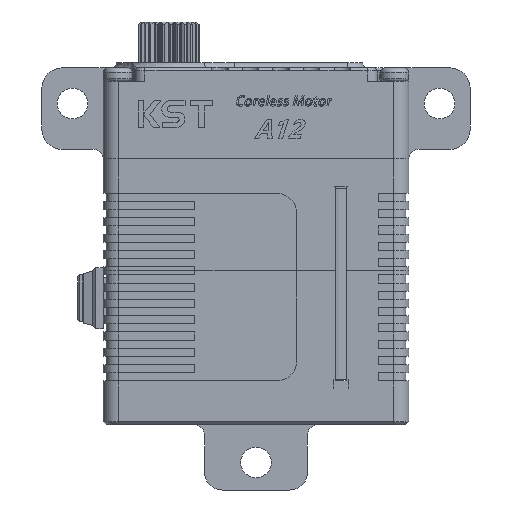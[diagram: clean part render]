
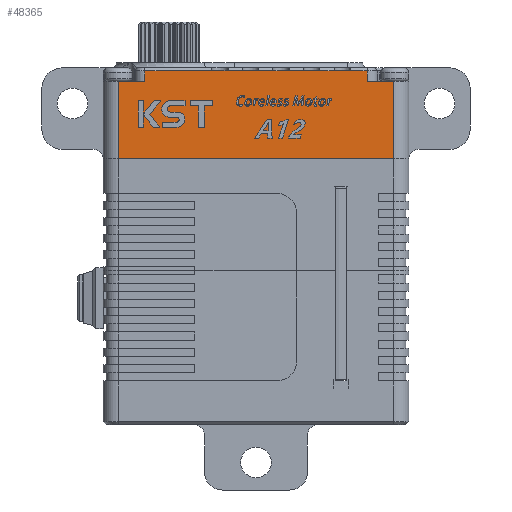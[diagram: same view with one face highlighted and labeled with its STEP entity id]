
A CAD part, front view. The second image highlights one B-rep face of the part: STEP entity #48365.
In plain terms, the highlighted planar face has unit normal (0, -1, 0).
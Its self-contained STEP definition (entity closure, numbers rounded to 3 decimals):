
#565 = VECTOR ( 'NONE', #31561, 1000. ) ;
#670 = VERTEX_POINT ( 'NONE', #24881 ) ;
#838 = ORIENTED_EDGE ( 'NONE', *, *, #50485, .T. ) ;
#1415 = CARTESIAN_POINT ( 'NONE',  ( -100.01, -23.605, 12.525 ) ) ;
#1687 = LINE ( 'NONE', #18117, #19752 ) ;
#2335 = CARTESIAN_POINT ( 'NONE',  ( -85.17, -23.605, 3.925 ) ) ;
#2393 = DIRECTION ( 'NONE',  ( 0., -1., 0. ) ) ;
#3161 = CARTESIAN_POINT ( 'NONE',  ( -85.17, -23.605, 11.525 ) ) ;
#3368 = LINE ( 'NONE', #5291, #38791 ) ;
#3504 = VERTEX_POINT ( 'NONE', #5169 ) ;
#4683 = EDGE_CURVE ( 'NONE', #3504, #26658, #1687, .T. ) ;
#5030 = CARTESIAN_POINT ( 'NONE',  ( -109.57, -23.605, 11.525 ) ) ;
#5169 = CARTESIAN_POINT ( 'NONE',  ( -97.01, -23.605, 12.525 ) ) ;
#5204 = DIRECTION ( 'NONE',  ( -1., 0., 0. ) ) ;
#5291 = CARTESIAN_POINT ( 'NONE',  ( -109.57, -23.605, 11.525 ) ) ;
#5498 = CARTESIAN_POINT ( 'NONE',  ( -94.01, -23.605, 12.525 ) ) ;
#5642 = ORIENTED_EDGE ( 'NONE', *, *, #38391, .T. ) ;
#5761 = VERTEX_POINT ( 'NONE', #2335 ) ;
#6139 = CARTESIAN_POINT ( 'NONE',  ( -98.67, -23.605, 12.525 ) ) ;
#6210 = CARTESIAN_POINT ( 'NONE',  ( -91.01, -23.605, 12.525 ) ) ;
#6582 = EDGE_CURVE ( 'NONE', #18808, #37841, #16674, .T. ) ;
#7113 = VERTEX_POINT ( 'NONE', #19435 ) ;
#7323 = DIRECTION ( 'NONE',  ( 0., 0., 1. ) ) ;
#8374 = CARTESIAN_POINT ( 'NONE',  ( -109.57, -23.605, 12.525 ) ) ;
#8912 = CARTESIAN_POINT ( 'NONE',  ( -98.67, -23.605, 12.525 ) ) ;
#9093 = VERTEX_POINT ( 'NONE', #9918 ) ;
#9282 = VERTEX_POINT ( 'NONE', #5030 ) ;
#9537 = CARTESIAN_POINT ( 'NONE',  ( -109.57, -23.605, 12.525 ) ) ;
#9852 = LINE ( 'NONE', #29312, #40899 ) ;
#9918 = CARTESIAN_POINT ( 'NONE',  ( -89.41, -23.605, 12.525 ) ) ;
#10071 = ORIENTED_EDGE ( 'NONE', *, *, #21860, .F. ) ;
#10084 = FACE_OUTER_BOUND ( 'NONE', #36856, .T. ) ;
#10905 = CARTESIAN_POINT ( 'NONE',  ( -98.67, -23.605, 12.525 ) ) ;
#11459 = LINE ( 'NONE', #9537, #41848 ) ;
#12508 = LINE ( 'NONE', #45454, #25492 ) ;
#12527 = EDGE_CURVE ( 'NONE', #29774, #18877, #32317, .T. ) ;
#12593 = DIRECTION ( 'NONE',  ( 0., 0., -1. ) ) ;
#12894 = CARTESIAN_POINT ( 'NONE',  ( -109.57, -23.605, 12.525 ) ) ;
#13334 = VECTOR ( 'NONE', #36129, 1000. ) ;
#13437 = LINE ( 'NONE', #15693, #32680 ) ;
#13836 = ORIENTED_EDGE ( 'NONE', *, *, #4683, .F. ) ;
#14155 = ORIENTED_EDGE ( 'NONE', *, *, #44339, .F. ) ;
#14239 = PLANE ( 'NONE',  #17272 ) ;
#14434 = VECTOR ( 'NONE', #33275, 1000. ) ;
#14587 = ORIENTED_EDGE ( 'NONE', *, *, #45323, .T. ) ;
#14924 = CARTESIAN_POINT ( 'NONE',  ( -95.41, -23.605, 12.525 ) ) ;
#15332 = CARTESIAN_POINT ( 'NONE',  ( -109.57, -23.605, 12.525 ) ) ;
#15677 = ORIENTED_EDGE ( 'NONE', *, *, #6582, .T. ) ;
#15693 = CARTESIAN_POINT ( 'NONE',  ( -85.17, -23.605, 10.525 ) ) ;
#16361 = DIRECTION ( 'NONE',  ( -1., 0., 0. ) ) ;
#16650 = CARTESIAN_POINT ( 'NONE',  ( -87.77, -23.605, 12.525 ) ) ;
#16656 = EDGE_CURVE ( 'NONE', #48278, #9282, #12508, .T. ) ;
#16674 = LINE ( 'NONE', #8374, #28477 ) ;
#17022 = ORIENTED_EDGE ( 'NONE', *, *, #27068, .F. ) ;
#17272 = AXIS2_PLACEMENT_3D ( 'NONE', #26511, #2393, #30194 ) ;
#18117 = CARTESIAN_POINT ( 'NONE',  ( -98.67, -23.605, 12.525 ) ) ;
#18381 = ORIENTED_EDGE ( 'NONE', *, *, #34651, .T. ) ;
#18579 = DIRECTION ( 'NONE',  ( 0., 0., -1. ) ) ;
#18808 = VERTEX_POINT ( 'NONE', #6210 ) ;
#18877 = VERTEX_POINT ( 'NONE', #23101 ) ;
#18933 = DIRECTION ( 'NONE',  ( 1., 0., 0. ) ) ;
#19435 = CARTESIAN_POINT ( 'NONE',  ( -101.41, -23.605, 12.525 ) ) ;
#19438 = DIRECTION ( 'NONE',  ( 1., 0., 0. ) ) ;
#19752 = VECTOR ( 'NONE', #40559, 1000. ) ;
#20606 = ORIENTED_EDGE ( 'NONE', *, *, #35065, .T. ) ;
#21074 = VERTEX_POINT ( 'NONE', #5498 ) ;
#21242 = VECTOR ( 'NONE', #41765, 1000. ) ;
#21385 = CARTESIAN_POINT ( 'NONE',  ( -109.57, -23.605, 12.525 ) ) ;
#21736 = LINE ( 'NONE', #39353, #565 ) ;
#21860 = EDGE_CURVE ( 'NONE', #18808, #9093, #43052, .T. ) ;
#22273 = LINE ( 'NONE', #42022, #49518 ) ;
#23101 = CARTESIAN_POINT ( 'NONE',  ( -98.41, -23.605, 12.525 ) ) ;
#23235 = VERTEX_POINT ( 'NONE', #51128 ) ;
#24389 = VECTOR ( 'NONE', #18933, 1000. ) ;
#24881 = CARTESIAN_POINT ( 'NONE',  ( -112.17, -23.605, 3.925 ) ) ;
#25060 = VERTEX_POINT ( 'NONE', #39522 ) ;
#25084 = EDGE_CURVE ( 'NONE', #23235, #41159, #34953, .T. ) ;
#25287 = DIRECTION ( 'NONE',  ( 0., 0., 1. ) ) ;
#25492 = VECTOR ( 'NONE', #48729, 1000. ) ;
#26511 = CARTESIAN_POINT ( 'NONE',  ( -77.67, -23.605, 12.825 ) ) ;
#26658 = VERTEX_POINT ( 'NONE', #14924 ) ;
#26765 = ORIENTED_EDGE ( 'NONE', *, *, #39846, .T. ) ;
#27068 = EDGE_CURVE ( 'NONE', #21074, #37841, #46071, .T. ) ;
#28477 = VECTOR ( 'NONE', #16361, 1000. ) ;
#29312 = CARTESIAN_POINT ( 'NONE',  ( -87.77, -23.605, 12.825 ) ) ;
#29317 = ORIENTED_EDGE ( 'NONE', *, *, #44439, .T. ) ;
#29516 = VECTOR ( 'NONE', #30938, 1000. ) ;
#29774 = VERTEX_POINT ( 'NONE', #1415 ) ;
#30194 = DIRECTION ( 'NONE',  ( 0., 0., -1. ) ) ;
#30886 = CARTESIAN_POINT ( 'NONE',  ( -86.92, -23.605, 11.525 ) ) ;
#30938 = DIRECTION ( 'NONE',  ( -1., 0., 0. ) ) ;
#31561 = DIRECTION ( 'NONE',  ( 1., 0., 0. ) ) ;
#31716 = VECTOR ( 'NONE', #46965, 1000. ) ;
#32317 = LINE ( 'NONE', #10905, #36678 ) ;
#32362 = LINE ( 'NONE', #46806, #31716 ) ;
#32538 = VECTOR ( 'NONE', #40962, 1000. ) ;
#32680 = VECTOR ( 'NONE', #7323, 1000. ) ;
#33275 = DIRECTION ( 'NONE',  ( 1., 0., 0. ) ) ;
#34232 = ORIENTED_EDGE ( 'NONE', *, *, #34938, .F. ) ;
#34585 = CARTESIAN_POINT ( 'NONE',  ( -92.41, -23.605, 12.525 ) ) ;
#34651 = EDGE_CURVE ( 'NONE', #21074, #26658, #46838, .T. ) ;
#34938 = EDGE_CURVE ( 'NONE', #5761, #670, #49897, .T. ) ;
#34953 = LINE ( 'NONE', #30886, #24389 ) ;
#35065 = EDGE_CURVE ( 'NONE', #25060, #43239, #11459, .T. ) ;
#35531 = LINE ( 'NONE', #21385, #21242 ) ;
#35648 = ORIENTED_EDGE ( 'NONE', *, *, #38613, .T. ) ;
#36129 = DIRECTION ( 'NONE',  ( -1., 0., 0. ) ) ;
#36678 = VECTOR ( 'NONE', #19438, 1000. ) ;
#36856 = EDGE_LOOP ( 'NONE', ( #29317, #26765, #10071, #15677, #17022, #18381, #13836, #38869, #47799, #35648, #14155, #20606, #838, #42903, #5642, #34232, #14587, #39612 ) ) ;
#37841 = VERTEX_POINT ( 'NONE', #34585 ) ;
#37984 = CARTESIAN_POINT ( 'NONE',  ( -112.17, -23.605, 3.925 ) ) ;
#38199 = EDGE_CURVE ( 'NONE', #3504, #18877, #35531, .T. ) ;
#38391 = EDGE_CURVE ( 'NONE', #48278, #670, #47875, .T. ) ;
#38613 = EDGE_CURVE ( 'NONE', #29774, #7113, #32362, .T. ) ;
#38791 = VECTOR ( 'NONE', #12593, 1000. ) ;
#38869 = ORIENTED_EDGE ( 'NONE', *, *, #38199, .T. ) ;
#39353 = CARTESIAN_POINT ( 'NONE',  ( -98.67, -23.605, 12.525 ) ) ;
#39522 = CARTESIAN_POINT ( 'NONE',  ( -103.01, -23.605, 12.525 ) ) ;
#39578 = CARTESIAN_POINT ( 'NONE',  ( -112.17, -23.605, 11.525 ) ) ;
#39612 = ORIENTED_EDGE ( 'NONE', *, *, #25084, .F. ) ;
#39846 = EDGE_CURVE ( 'NONE', #41346, #9093, #22273, .T. ) ;
#40559 = DIRECTION ( 'NONE',  ( 1., 0., 0. ) ) ;
#40899 = VECTOR ( 'NONE', #25287, 1000. ) ;
#40962 = DIRECTION ( 'NONE',  ( 1., 0., 0. ) ) ;
#41159 = VERTEX_POINT ( 'NONE', #3161 ) ;
#41346 = VERTEX_POINT ( 'NONE', #16650 ) ;
#41765 = DIRECTION ( 'NONE',  ( -1., 0., 0. ) ) ;
#41848 = VECTOR ( 'NONE', #5204, 1000. ) ;
#42022 = CARTESIAN_POINT ( 'NONE',  ( -109.57, -23.605, 12.525 ) ) ;
#42903 = ORIENTED_EDGE ( 'NONE', *, *, #16656, .F. ) ;
#43052 = LINE ( 'NONE', #8912, #32538 ) ;
#43239 = VERTEX_POINT ( 'NONE', #12894 ) ;
#44143 = VECTOR ( 'NONE', #18579, 1000. ) ;
#44339 = EDGE_CURVE ( 'NONE', #25060, #7113, #21736, .T. ) ;
#44439 = EDGE_CURVE ( 'NONE', #23235, #41346, #9852, .T. ) ;
#45323 = EDGE_CURVE ( 'NONE', #5761, #41159, #13437, .T. ) ;
#45454 = CARTESIAN_POINT ( 'NONE',  ( -112.17, -23.605, 11.525 ) ) ;
#46071 = LINE ( 'NONE', #6139, #14434 ) ;
#46806 = CARTESIAN_POINT ( 'NONE',  ( -109.57, -23.605, 12.525 ) ) ;
#46838 = LINE ( 'NONE', #15332, #29516 ) ;
#46965 = DIRECTION ( 'NONE',  ( -1., 0., 0. ) ) ;
#47799 = ORIENTED_EDGE ( 'NONE', *, *, #12527, .F. ) ;
#47875 = LINE ( 'NONE', #37984, #44143 ) ;
#48241 = CARTESIAN_POINT ( 'NONE',  ( -77.67, -23.605, 3.925 ) ) ;
#48278 = VERTEX_POINT ( 'NONE', #39578 ) ;
#48365 = ADVANCED_FACE ( 'NONE', ( #10084 ), #14239, .T. ) ;
#48729 = DIRECTION ( 'NONE',  ( 1., 0., 0. ) ) ;
#49518 = VECTOR ( 'NONE', #49995, 1000. ) ;
#49897 = LINE ( 'NONE', #48241, #13334 ) ;
#49995 = DIRECTION ( 'NONE',  ( -1., 0., 0. ) ) ;
#50485 = EDGE_CURVE ( 'NONE', #43239, #9282, #3368, .T. ) ;
#51128 = CARTESIAN_POINT ( 'NONE',  ( -87.77, -23.605, 11.525 ) ) ;
